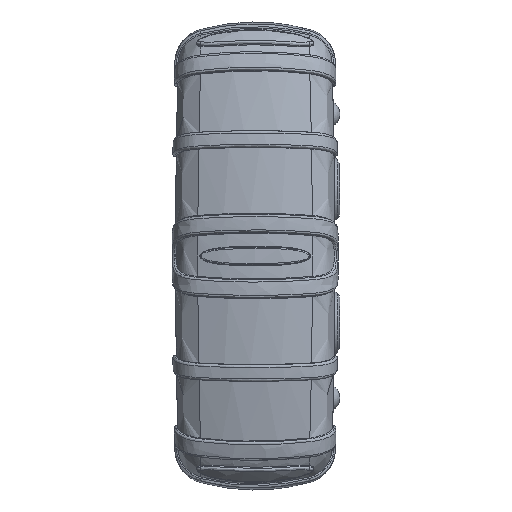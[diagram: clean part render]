
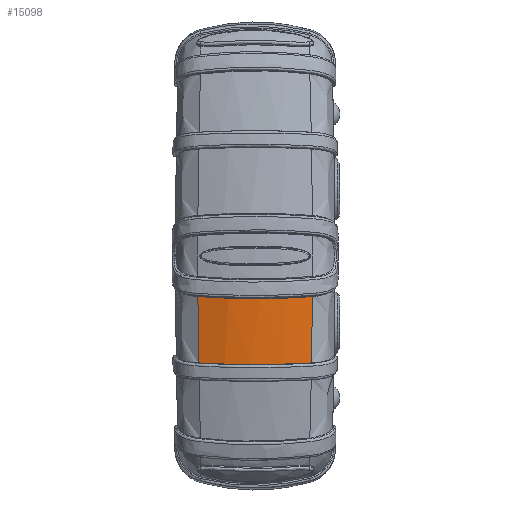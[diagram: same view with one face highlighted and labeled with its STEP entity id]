
A CAD part, left-side view. The second image highlights one B-rep face of the part: STEP entity #15098.
In plain terms, the highlighted toroidal (fillet/blend) face has major radius 96.912 mm and minor radius 37.404 mm.
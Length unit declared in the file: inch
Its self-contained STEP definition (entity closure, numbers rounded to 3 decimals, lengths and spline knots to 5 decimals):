
#8011 = CARTESIAN_POINT ( 'NONE',  ( -5.53618, -0.44341, -0.3036 ) ) ;
#8013 = CARTESIAN_POINT ( 'NONE',  ( -5.53618, 0.41241, -0.3036 ) ) ;
#15098 = ADVANCED_FACE ( 'NONE', ( #59443 ), #59436, .T. ) ;
#16712 = AXIS2_PLACEMENT_3D ( 'NONE', #54714, #54703, #54710 ) ;
#16895 = EDGE_CURVE ( 'NONE', #99130, #99128, #24226, .T. ) ;
#23229 = ORIENTED_EDGE ( 'NONE', *, *, #58976, .T. ) ;
#24226 = B_SPLINE_CURVE_WITH_KNOTS ( 'NONE', 3,
 ( #45307, #45377, #45366, #45350, #45351, #45352, #45353, #45361, #45343, #45344, #45317, #45318, #45368, #45355, #45356, #45357, #45341, #45342 ),
 .UNSPECIFIED., .F., .F.,
 ( 4, 2, 2, 2, 2, 2, 2, 2, 4 ),
 ( 0.00014, 0.00152, 0.0029, 0.00567, 0.01119, 0.01671, 0.01947, 0.02086, 0.02224 ),
 .UNSPECIFIED. ) ;
#24347 = ORIENTED_EDGE ( 'NONE', *, *, #16895, .F. ) ;
#24516 = ORIENTED_EDGE ( 'NONE', *, *, #58980, .T. ) ;
#24669 = ORIENTED_EDGE ( 'NONE', *, *, #58982, .F. ) ;
#43757 = CARTESIAN_POINT ( 'NONE',  ( -5.50927, -0.43752, -0.79949 ) ) ;
#44188 = CARTESIAN_POINT ( 'NONE',  ( -5.50927, 0.40652, -0.79948 ) ) ;
#45307 = CARTESIAN_POINT ( 'NONE',  ( -5.53618, 0.41241, -0.3036 ) ) ;
#45317 = CARTESIAN_POINT ( 'NONE',  ( -5.59424, -0.16007, -0.31766 ) ) ;
#45318 = CARTESIAN_POINT ( 'NONE',  ( -5.57832, -0.26759, -0.31412 ) ) ;
#45341 = CARTESIAN_POINT ( 'NONE',  ( -5.54141, -0.42613, -0.30527 ) ) ;
#45342 = CARTESIAN_POINT ( 'NONE',  ( -5.53618, -0.44341, -0.3036 ) ) ;
#45343 = CARTESIAN_POINT ( 'NONE',  ( -5.59955, 0.05707, -0.31874 ) ) ;
#45344 = CARTESIAN_POINT ( 'NONE',  ( -5.59956, -0.08791, -0.31876 ) ) ;
#45350 = CARTESIAN_POINT ( 'NONE',  ( -5.55555, 0.34274, -0.30872 ) ) ;
#45351 = CARTESIAN_POINT ( 'NONE',  ( -5.55983, 0.32516, -0.30974 ) ) ;
#45352 = CARTESIAN_POINT ( 'NONE',  ( -5.5717, 0.27221, -0.31252 ) ) ;
#45353 = CARTESIAN_POINT ( 'NONE',  ( -5.57832, 0.23658, -0.3141 ) ) ;
#45355 = CARTESIAN_POINT ( 'NONE',  ( -5.55983, -0.35618, -0.30969 ) ) ;
#45356 = CARTESIAN_POINT ( 'NONE',  ( -5.55554, -0.37375, -0.30859 ) ) ;
#45357 = CARTESIAN_POINT ( 'NONE',  ( -5.54634, -0.40873, -0.3064 ) ) ;
#45361 = CARTESIAN_POINT ( 'NONE',  ( -5.59423, 0.12914, -0.31772 ) ) ;
#45366 = CARTESIAN_POINT ( 'NONE',  ( -5.54634, 0.37773, -0.30655 ) ) ;
#45368 = CARTESIAN_POINT ( 'NONE',  ( -5.57171, -0.30319, -0.31263 ) ) ;
#45377 = CARTESIAN_POINT ( 'NONE',  ( -5.54141, 0.39514, -0.3054 ) ) ;
#54703 = DIRECTION ( 'NONE',  ( 0., 1., 0. ) ) ;
#54710 = DIRECTION ( 'NONE',  ( 0., 0., 1. ) ) ;
#54714 = CARTESIAN_POINT ( 'NONE',  ( -0.312, -0.0155, -0.25 ) ) ;
#57808 = CARTESIAN_POINT ( 'NONE',  ( -5.50927, -0.43752, -0.79949 ) ) ;
#58348 = CARTESIAN_POINT ( 'NONE',  ( -5.50927, 0.40652, -0.79948 ) ) ;
#58350 = CARTESIAN_POINT ( 'NONE',  ( -5.5118, 0.39796, -0.79991 ) ) ;
#58351 = CARTESIAN_POINT ( 'NONE',  ( -5.51422, 0.38939, -0.8005 ) ) ;
#58353 = CARTESIAN_POINT ( 'NONE',  ( -5.51895, 0.37222, -0.80149 ) ) ;
#58355 = CARTESIAN_POINT ( 'NONE',  ( -5.52123, 0.36361, -0.80195 ) ) ;
#58357 = CARTESIAN_POINT ( 'NONE',  ( -5.52786, 0.33772, -0.80322 ) ) ;
#58358 = CARTESIAN_POINT ( 'NONE',  ( -5.53197, 0.32039, -0.80402 ) ) ;
#58360 = CARTESIAN_POINT ( 'NONE',  ( -5.54338, 0.26816, -0.80619 ) ) ;
#58362 = CARTESIAN_POINT ( 'NONE',  ( -5.54975, 0.23299, -0.80734 ) ) ;
#58364 = CARTESIAN_POINT ( 'NONE',  ( -5.55995, 0.16238, -0.80917 ) ) ;
#58366 = CARTESIAN_POINT ( 'NONE',  ( -5.56378, 0.12693, -0.80984 ) ) ;
#58368 = CARTESIAN_POINT ( 'NONE',  ( -5.56889, 0.05573, -0.81071 ) ) ;
#58369 = CARTESIAN_POINT ( 'NONE',  ( -5.57017, 0.02001, -0.81093 ) ) ;
#58371 = CARTESIAN_POINT ( 'NONE',  ( -5.57016, -0.05126, -0.81092 ) ) ;
#58373 = CARTESIAN_POINT ( 'NONE',  ( -5.56888, -0.08686, -0.81071 ) ) ;
#58374 = CARTESIAN_POINT ( 'NONE',  ( -5.56377, -0.15799, -0.80983 ) ) ;
#58376 = CARTESIAN_POINT ( 'NONE',  ( -5.55992, -0.19355, -0.80917 ) ) ;
#58378 = CARTESIAN_POINT ( 'NONE',  ( -5.54973, -0.26408, -0.80735 ) ) ;
#58380 = CARTESIAN_POINT ( 'NONE',  ( -5.54339, -0.29911, -0.80619 ) ) ;
#58381 = CARTESIAN_POINT ( 'NONE',  ( -5.53199, -0.35131, -0.80402 ) ) ;
#58383 = CARTESIAN_POINT ( 'NONE',  ( -5.52788, -0.36865, -0.80324 ) ) ;
#58385 = CARTESIAN_POINT ( 'NONE',  ( -5.51903, -0.40321, -0.80155 ) ) ;
#58386 = CARTESIAN_POINT ( 'NONE',  ( -5.51432, -0.42041, -0.80042 ) ) ;
#58406 = CARTESIAN_POINT ( 'NONE',  ( -5.50927, -0.43752, -0.79949 ) ) ;
#58409 = CARTESIAN_POINT ( 'NONE',  ( -5.50927, 0.40652, -0.79948 ) ) ;
#58410 = CARTESIAN_POINT ( 'NONE',  ( -5.52581, 0.40933, -0.63503 ) ) ;
#58412 = CARTESIAN_POINT ( 'NONE',  ( -5.53481, 0.4113, -0.46975 ) ) ;
#58422 = CARTESIAN_POINT ( 'NONE',  ( -5.53618, 0.41241, -0.3036 ) ) ;
#58448 = CARTESIAN_POINT ( 'NONE',  ( -5.53618, -0.44341, -0.3036 ) ) ;
#58450 = CARTESIAN_POINT ( 'NONE',  ( -5.53481, -0.4423, -0.46975 ) ) ;
#58452 = CARTESIAN_POINT ( 'NONE',  ( -5.52581, -0.44033, -0.63504 ) ) ;
#58976 = EDGE_CURVE ( 'NONE', #90731, #99128, #75384, .T. ) ;
#58980 = EDGE_CURVE ( 'NONE', #99130, #90391, #75380, .T. ) ;
#58982 = EDGE_CURVE ( 'NONE', #90731, #90391, #75376, .T. ) ;
#59436 = TOROIDAL_SURFACE ( 'NONE', #16712, 3.81541, 1.47259 ) ;
#59443 = FACE_OUTER_BOUND ( 'NONE', #89381, .T. ) ;
#75376 = B_SPLINE_CURVE_WITH_KNOTS ( 'NONE', 3,
 ( #58406, #58386, #58385, #58383, #58381, #58380, #58378, #58376, #58374, #58373, #58371, #58369, #58368, #58366, #58364, #58362, #58360, #58358, #58357, #58355, #58353, #58351, #58350, #58348 ),
 .UNSPECIFIED., .F., .F.,
 ( 4, 2, 2, 2, 2, 2, 2, 2, 2, 2, 2, 4 ),
 ( 0.0003, 0.00166, 0.00302, 0.00574, 0.00846, 0.01119, 0.01391, 0.01663, 0.01935, 0.02071, 0.02139, 0.02207 ),
 .UNSPECIFIED. ) ;
#75380 = B_SPLINE_CURVE_WITH_KNOTS ( 'NONE', 3,
 ( #58422, #58412, #58410, #58409 ),
 .UNSPECIFIED., .F., .F.,
 ( 4, 4 ),
 ( 0.00135, 0.01395 ),
 .UNSPECIFIED. ) ;
#75384 = B_SPLINE_CURVE_WITH_KNOTS ( 'NONE', 3,
 ( #57808, #58452, #58450, #58448 ),
 .UNSPECIFIED., .F., .F.,
 ( 4, 4 ),
 ( 0.0164, 0.029 ),
 .UNSPECIFIED. ) ;
#89381 = EDGE_LOOP ( 'NONE', ( #24347, #24516, #24669, #23229 ) ) ;
#90391 = VERTEX_POINT ( 'NONE', #44188 ) ;
#90731 = VERTEX_POINT ( 'NONE', #43757 ) ;
#99128 = VERTEX_POINT ( 'NONE', #8011 ) ;
#99130 = VERTEX_POINT ( 'NONE', #8013 ) ;
